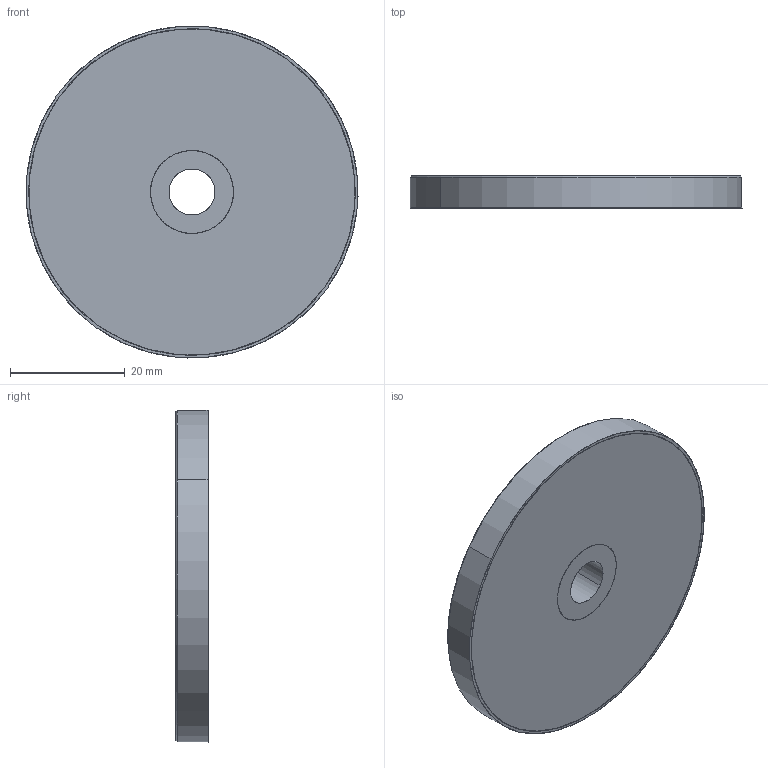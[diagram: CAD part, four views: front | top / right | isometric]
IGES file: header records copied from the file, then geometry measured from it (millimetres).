
Start section: SolidWorks IGES file using analytic representation for surfaces
Global section: file name: C:\Zettlex Data\Mechanical Drawings\1615\58mm Plain Rotor 8.00mm Rev 1-0.IGS; native system: SolidWorks 2015; preprocessor: SolidWorks 2015; author: Nigel; date: 150907.174127; units: millimetre
Bounding box: 57.98 x 5.6 x 57.98 mm (x, y, z)
Surface area: 6369.3 mm2 (no closed solid volume)
Topology: 0 solids, 0 shells, 658 faces, 7836 edges, 7836 vertices
Faces by surface type: bspline 644, revolution 14
